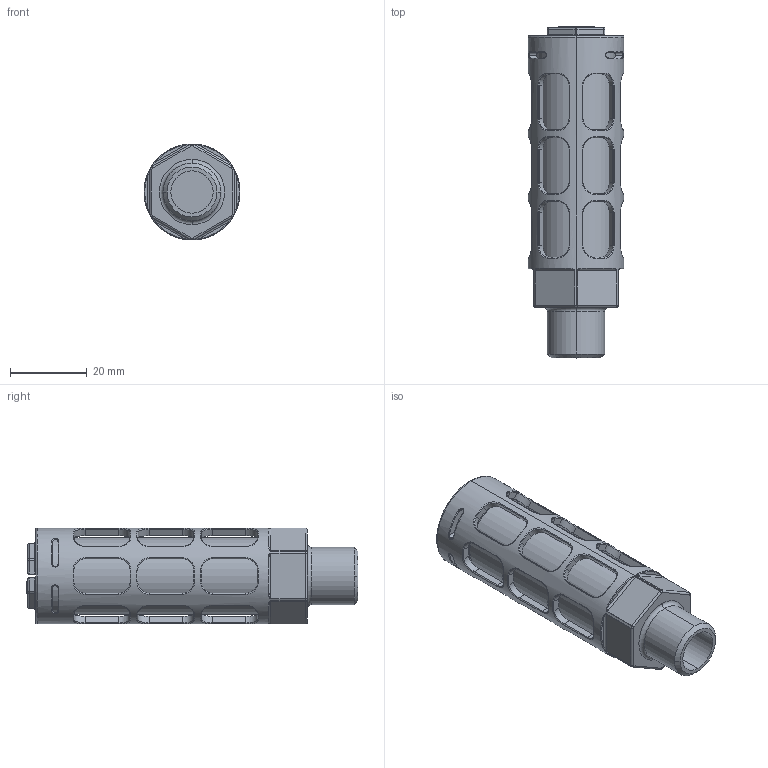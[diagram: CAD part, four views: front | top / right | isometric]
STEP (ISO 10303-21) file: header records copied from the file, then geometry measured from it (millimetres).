
FILE_DESCRIPTION (( 'STEP AP214' ), '1' );
FILE_NAME ('SLN00015 silenziatore PA grigio G3-8.STEP', '2019-10-01T07:28:57', ( '' ), ( '' ), 'SwSTEP 2.0', 'SolidWorks 2018', '' );
FILE_SCHEMA (( 'AUTOMOTIVE_DESIGN' ));
Length unit declared in the file: millimetre
Products named in the file (1): SLN00015 silenziatore PA grigio G3-8
Bounding box: 25 x 86.5 x 25 mm (x, y, z)
Volume: 29153 mm3; surface area: 14584.2 mm2
Topology: 3 solids, 3 shells, 648 faces, 1567 edges, 925 vertices
Faces by surface type: cylinder 222, bspline 190, plane 154, torus 76, cone 6
Entity records: 30783 total; most frequent: CARTESIAN_POINT 17089, ORIENTED_EDGE 3110, DIRECTION 2448, EDGE_CURVE 1555, AXIS2_PLACEMENT_3D 941, VERTEX_POINT 925, EDGE_LOOP 706, ADVANCED_FACE 648
